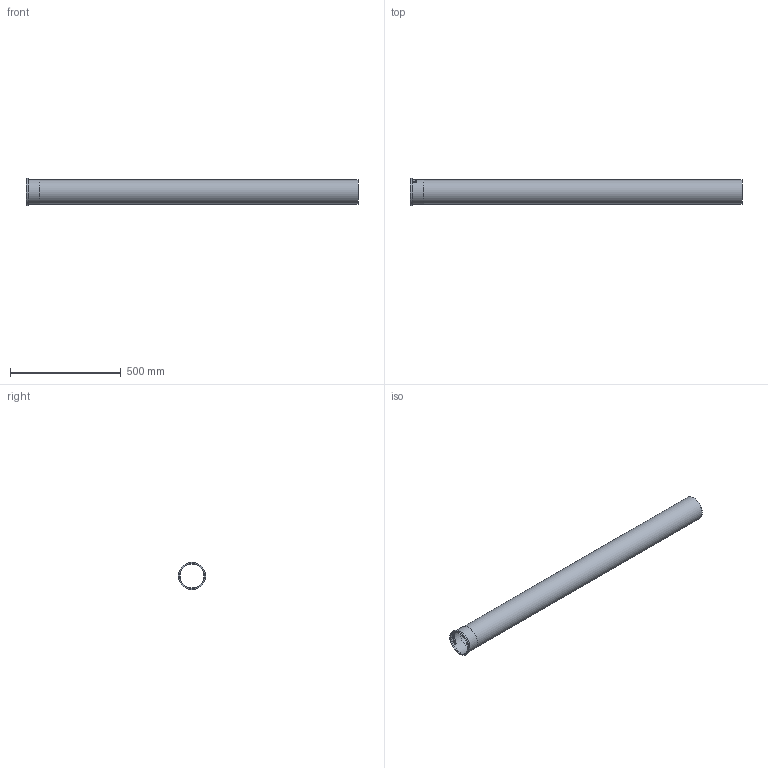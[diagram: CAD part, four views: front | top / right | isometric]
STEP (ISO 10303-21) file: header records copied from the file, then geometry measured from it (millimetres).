
FILE_DESCRIPTION((''),'2;1');
FILE_NAME('I:\WATTS\3D_CAD\3D_CAD_Models\Blucher_Drains\P_StraightPipe\WebsiteFiles\3D\STEP\P4-4.9-316.stp','2009-12-02T14:21:38',('menesek'),(''),'Autodesk Inventor 2010','Autodesk Inventor 2010','');
FILE_SCHEMA(('AUTOMOTIVE_DESIGN { 1 0 10303 214 1 1 1 1 }'));
Length unit declared in the file: inch
Products named in the file (1): P4-4.9-316
Bounding box: 1500 x 122.94 x 122.94 mm (x, y, z)
Volume: 548944.4 mm3; surface area: 1033007.3 mm2
Topology: 1 solids, 1 shells, 109 faces, 285 edges, 190 vertices
Faces by surface type: plane 59, bspline 34, cylinder 16
Full cylindrical faces by diameter (mm): 107.95 x1, 109.982 x1, 111.252 x2, 122.936 x1
Entity records: 13900 total; most frequent: CARTESIAN_POINT 11522, ORIENTED_EDGE 548, DIRECTION 356, EDGE_CURVE 274, VERTEX_POINT 186, EDGE_LOOP 128, AXIS2_PLACEMENT_3D 120, VECTOR 116
